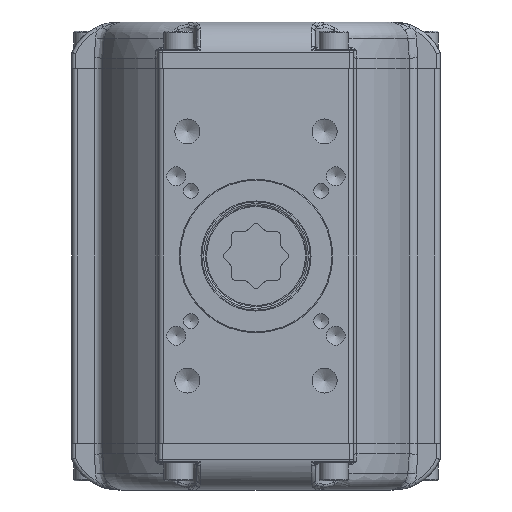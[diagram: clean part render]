
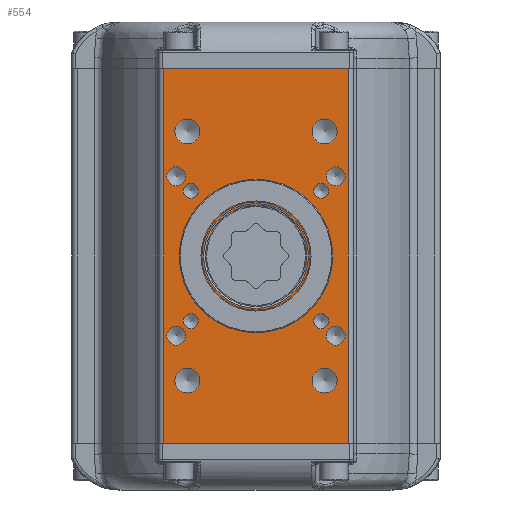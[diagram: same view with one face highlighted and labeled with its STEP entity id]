
A CAD part, front view. The second image highlights one B-rep face of the part: STEP entity #554.
In plain terms, the highlighted planar face has unit normal (0, -1, 0).
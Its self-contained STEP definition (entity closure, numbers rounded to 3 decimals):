
#109=CARTESIAN_POINT('',(40.25,-103.,-36.062));
#110=VERTEX_POINT('',#109);
#111=CARTESIAN_POINT('',(36.062,-103.,-36.062));
#112=DIRECTION('',(0.0,1.0,0.0));
#113=DIRECTION('',(1.0,0.0,0.0));
#114=AXIS2_PLACEMENT_3D('',#111,#112,#113);
#115=CIRCLE('',#114,4.188);
#116=EDGE_CURVE('',#110,#110,#115,.T.);
#146=CARTESIAN_POINT('',(-31.874,-103.,36.062));
#147=VERTEX_POINT('',#146);
#148=CARTESIAN_POINT('',(-36.062,-103.,36.062));
#149=DIRECTION('',(0.0,1.0,0.0));
#150=DIRECTION('',(1.0,0.0,0.0));
#151=AXIS2_PLACEMENT_3D('',#148,#149,#150);
#152=CIRCLE('',#151,4.188);
#153=EDGE_CURVE('',#147,#147,#152,.T.);
#183=CARTESIAN_POINT('',(40.25,-103.,36.062));
#184=VERTEX_POINT('',#183);
#185=CARTESIAN_POINT('',(36.062,-103.,36.062));
#186=DIRECTION('',(0.0,1.0,0.0));
#187=DIRECTION('',(1.0,0.0,0.0));
#188=AXIS2_PLACEMENT_3D('',#185,#186,#187);
#189=CIRCLE('',#188,4.188);
#190=EDGE_CURVE('',#184,#184,#189,.T.);
#220=CARTESIAN_POINT('',(-31.874,-103.,-36.062));
#221=VERTEX_POINT('',#220);
#222=CARTESIAN_POINT('',(-36.062,-103.,-36.062));
#223=DIRECTION('',(0.0,1.0,0.0));
#224=DIRECTION('',(1.0,0.0,0.0));
#225=AXIS2_PLACEMENT_3D('',#222,#223,#224);
#226=CIRCLE('',#225,4.188);
#227=EDGE_CURVE('',#221,#221,#226,.T.);
#257=CARTESIAN_POINT('',(44.918,-103.,-69.));
#258=VERTEX_POINT('',#257);
#259=CARTESIAN_POINT('',(38.,-103.,-69.));
#260=DIRECTION('',(0.0,1.0,0.0));
#261=DIRECTION('',(1.0,0.0,0.0));
#262=AXIS2_PLACEMENT_3D('',#259,#260,#261);
#263=CIRCLE('',#262,6.918);
#264=EDGE_CURVE('',#258,#258,#263,.T.);
#294=CARTESIAN_POINT('',(-31.083,-103.,69.0));
#295=VERTEX_POINT('',#294);
#296=CARTESIAN_POINT('',(-38.,-103.,69.0));
#297=DIRECTION('',(0.0,1.0,0.0));
#298=DIRECTION('',(1.0,0.0,0.0));
#299=AXIS2_PLACEMENT_3D('',#296,#297,#298);
#300=CIRCLE('',#299,6.918);
#301=EDGE_CURVE('',#295,#295,#300,.T.);
#331=CARTESIAN_POINT('',(44.918,-103.,69.0));
#332=VERTEX_POINT('',#331);
#333=CARTESIAN_POINT('',(38.,-103.,69.0));
#334=DIRECTION('',(0.0,1.0,0.0));
#335=DIRECTION('',(1.0,0.0,0.0));
#336=AXIS2_PLACEMENT_3D('',#333,#334,#335);
#337=CIRCLE('',#336,6.918);
#338=EDGE_CURVE('',#332,#332,#337,.T.);
#368=CARTESIAN_POINT('',(-31.082,-103.,-69.));
#369=VERTEX_POINT('',#368);
#370=CARTESIAN_POINT('',(-38.,-103.,-69.));
#371=DIRECTION('',(0.0,1.0,0.0));
#372=DIRECTION('',(1.0,0.0,0.0));
#373=AXIS2_PLACEMENT_3D('',#370,#371,#372);
#374=CIRCLE('',#373,6.918);
#375=EDGE_CURVE('',#369,#369,#374,.T.);
#399=CARTESIAN_POINT('',(29.,-103.,0.));
#400=VERTEX_POINT('',#399);
#401=CARTESIAN_POINT('',(0.0,-103.,0.0));
#402=DIRECTION('',(0.0,-1.0,0.0));
#403=DIRECTION('',(-1.0,0.0,0.0));
#404=AXIS2_PLACEMENT_3D('',#401,#402,#403);
#405=CIRCLE('',#404,29.);
#406=EDGE_CURVE('',#400,#400,#405,.T.);
#411=CARTESIAN_POINT('',(54.,-103.,0.0));
#412=DIRECTION('',(0.0,-1.0,0.0));
#413=DIRECTION('',(0.0,0.0,-1.0));
#414=AXIS2_PLACEMENT_3D('',#411,#412,#413);
#415=PLANE('',#414);
#416=CARTESIAN_POINT('',(51.,-103.,103.6));
#417=VERTEX_POINT('',#416);
#418=CARTESIAN_POINT('',(51.,-103.,-103.6));
#419=VERTEX_POINT('',#418);
#420=CARTESIAN_POINT('',(51.,-103.,103.6));
#421=DIRECTION('',(0.0,0.0,-1.0));
#422=VECTOR('',#421,207.2);
#423=LINE('',#420,#422);
#424=EDGE_CURVE('',#417,#419,#423,.T.);
#425=ORIENTED_EDGE('',*,*,#424,.F.);
#426=CARTESIAN_POINT('',(-51.,-103.,103.6));
#427=VERTEX_POINT('',#426);
#428=CARTESIAN_POINT('',(51.,-103.,103.6));
#429=DIRECTION('',(-1.0,0.0,0.0));
#430=VECTOR('',#429,102.);
#431=LINE('',#428,#430);
#432=EDGE_CURVE('',#417,#427,#431,.T.);
#433=ORIENTED_EDGE('',*,*,#432,.T.);
#434=CARTESIAN_POINT('',(-51.,-103.,-103.6));
#435=VERTEX_POINT('',#434);
#436=CARTESIAN_POINT('',(-51.,-103.,-103.6));
#437=DIRECTION('',(0.0,0.0,1.0));
#438=VECTOR('',#437,207.2);
#439=LINE('',#436,#438);
#440=EDGE_CURVE('',#435,#427,#439,.T.);
#441=ORIENTED_EDGE('',*,*,#440,.F.);
#442=CARTESIAN_POINT('',(-51.,-103.,-103.6));
#443=DIRECTION('',(1.0,0.0,0.0));
#444=VECTOR('',#443,102.);
#445=LINE('',#442,#444);
#446=EDGE_CURVE('',#435,#419,#445,.T.);
#447=ORIENTED_EDGE('',*,*,#446,.T.);
#448=EDGE_LOOP('',(#425,#433,#441,#447));
#449=FACE_OUTER_BOUND('',#448,.T.);
#450=ORIENTED_EDGE('',*,*,#116,.T.);
#451=EDGE_LOOP('',(#450));
#452=FACE_BOUND('',#451,.T.);
#453=ORIENTED_EDGE('',*,*,#153,.T.);
#454=EDGE_LOOP('',(#453));
#455=FACE_BOUND('',#454,.T.);
#456=ORIENTED_EDGE('',*,*,#190,.T.);
#457=EDGE_LOOP('',(#456));
#458=FACE_BOUND('',#457,.T.);
#459=ORIENTED_EDGE('',*,*,#227,.T.);
#460=EDGE_LOOP('',(#459));
#461=FACE_BOUND('',#460,.T.);
#462=CARTESIAN_POINT('',(-15.,-103.,29.012));
#463=VERTEX_POINT('',#462);
#464=CARTESIAN_POINT('',(-16.75,-103.,29.012));
#465=DIRECTION('',(0.0,1.0,0.0));
#466=DIRECTION('',(1.0,0.0,0.0));
#467=AXIS2_PLACEMENT_3D('',#464,#465,#466);
#468=CIRCLE('',#467,1.75);
#469=EDGE_CURVE('',#463,#463,#468,.T.);
#470=ORIENTED_EDGE('',*,*,#469,.T.);
#471=EDGE_LOOP('',(#470));
#472=FACE_BOUND('',#471,.T.);
#473=CARTESIAN_POINT('',(35.25,-103.,0.0));
#474=VERTEX_POINT('',#473);
#475=CARTESIAN_POINT('',(33.5,-103.,0.0));
#476=DIRECTION('',(0.0,1.0,0.0));
#477=DIRECTION('',(1.0,0.0,0.0));
#478=AXIS2_PLACEMENT_3D('',#475,#476,#477);
#479=CIRCLE('',#478,1.75);
#480=EDGE_CURVE('',#474,#474,#479,.T.);
#481=ORIENTED_EDGE('',*,*,#480,.T.);
#482=EDGE_LOOP('',(#481));
#483=FACE_BOUND('',#482,.T.);
#484=CARTESIAN_POINT('',(-15.,-103.,-29.012));
#485=VERTEX_POINT('',#484);
#486=CARTESIAN_POINT('',(-16.75,-103.,-29.012));
#487=DIRECTION('',(0.0,1.0,0.0));
#488=DIRECTION('',(1.0,0.0,0.0));
#489=AXIS2_PLACEMENT_3D('',#486,#487,#488);
#490=CIRCLE('',#489,1.75);
#491=EDGE_CURVE('',#485,#485,#490,.T.);
#492=ORIENTED_EDGE('',*,*,#491,.T.);
#493=EDGE_LOOP('',(#492));
#494=FACE_BOUND('',#493,.T.);
#495=ORIENTED_EDGE('',*,*,#264,.T.);
#496=EDGE_LOOP('',(#495));
#497=FACE_BOUND('',#496,.T.);
#498=ORIENTED_EDGE('',*,*,#301,.T.);
#499=EDGE_LOOP('',(#498));
#500=FACE_BOUND('',#499,.T.);
#501=ORIENTED_EDGE('',*,*,#338,.T.);
#502=EDGE_LOOP('',(#501));
#503=FACE_BOUND('',#502,.T.);
#504=ORIENTED_EDGE('',*,*,#375,.T.);
#505=EDGE_LOOP('',(#504));
#506=FACE_BOUND('',#505,.T.);
#507=CARTESIAN_POINT('',(49.382,-103.,44.194));
#508=VERTEX_POINT('',#507);
#509=CARTESIAN_POINT('',(44.194,-103.,44.194));
#510=DIRECTION('',(0.0,1.0,0.0));
#511=DIRECTION('',(1.0,0.0,0.0));
#512=AXIS2_PLACEMENT_3D('',#509,#510,#511);
#513=CIRCLE('',#512,5.188);
#514=EDGE_CURVE('',#508,#508,#513,.T.);
#515=ORIENTED_EDGE('',*,*,#514,.T.);
#516=EDGE_LOOP('',(#515));
#517=FACE_BOUND('',#516,.T.);
#518=CARTESIAN_POINT('',(-39.006,-103.,-44.194));
#519=VERTEX_POINT('',#518);
#520=CARTESIAN_POINT('',(-44.194,-103.,-44.194));
#521=DIRECTION('',(0.0,1.0,0.0));
#522=DIRECTION('',(1.0,0.0,0.0));
#523=AXIS2_PLACEMENT_3D('',#520,#521,#522);
#524=CIRCLE('',#523,5.188);
#525=EDGE_CURVE('',#519,#519,#524,.T.);
#526=ORIENTED_EDGE('',*,*,#525,.T.);
#527=EDGE_LOOP('',(#526));
#528=FACE_BOUND('',#527,.T.);
#529=CARTESIAN_POINT('',(49.382,-103.,-44.194));
#530=VERTEX_POINT('',#529);
#531=CARTESIAN_POINT('',(44.194,-103.,-44.194));
#532=DIRECTION('',(0.0,1.0,0.0));
#533=DIRECTION('',(1.0,0.0,0.0));
#534=AXIS2_PLACEMENT_3D('',#531,#532,#533);
#535=CIRCLE('',#534,5.188);
#536=EDGE_CURVE('',#530,#530,#535,.T.);
#537=ORIENTED_EDGE('',*,*,#536,.T.);
#538=EDGE_LOOP('',(#537));
#539=FACE_BOUND('',#538,.T.);
#540=CARTESIAN_POINT('',(-39.006,-103.,44.194));
#541=VERTEX_POINT('',#540);
#542=CARTESIAN_POINT('',(-44.194,-103.,44.194));
#543=DIRECTION('',(0.0,1.0,0.0));
#544=DIRECTION('',(1.0,0.0,0.0));
#545=AXIS2_PLACEMENT_3D('',#542,#543,#544);
#546=CIRCLE('',#545,5.188);
#547=EDGE_CURVE('',#541,#541,#546,.T.);
#548=ORIENTED_EDGE('',*,*,#547,.T.);
#549=EDGE_LOOP('',(#548));
#550=FACE_BOUND('',#549,.T.);
#551=ORIENTED_EDGE('',*,*,#406,.F.);
#552=EDGE_LOOP('',(#551));
#553=FACE_BOUND('',#552,.T.);
#554=ADVANCED_FACE('',(#449,#452,#455,#458,#461,#472,#483,#494,#497,#500,#503,#506,#517,#528,#539,#550,#553),#415,.T.);
